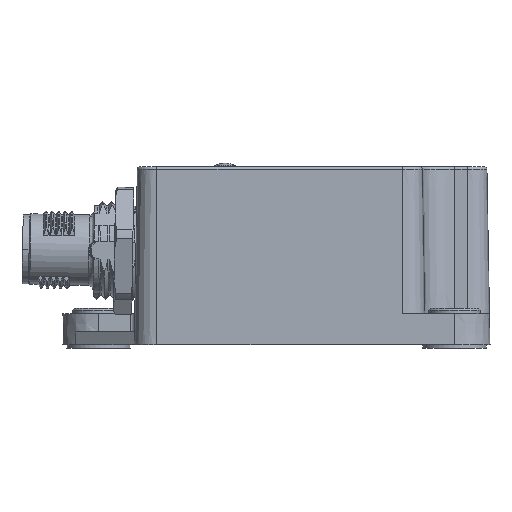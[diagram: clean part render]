
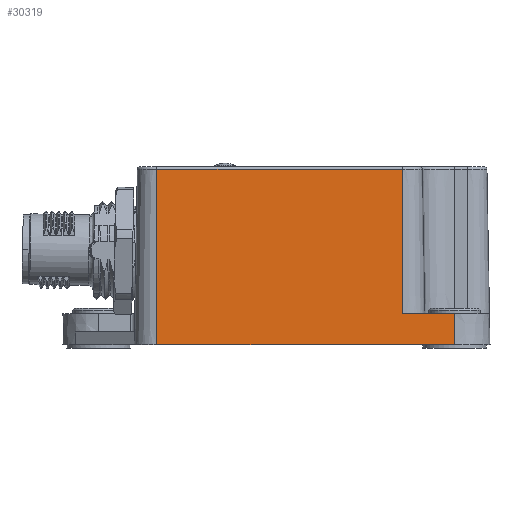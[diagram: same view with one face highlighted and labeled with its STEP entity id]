
A CAD part, front view. The second image highlights one B-rep face of the part: STEP entity #30319.
In plain terms, the highlighted planar face has unit normal (0, -1, 0.018).
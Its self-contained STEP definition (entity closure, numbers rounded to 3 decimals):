
#501 = VECTOR ( 'NONE', #4410, 1000. ) ;
#2107 = EDGE_LOOP ( 'NONE', ( #3511, #30386, #9573, #7128, #4395, #5411 ) ) ;
#3493 = CARTESIAN_POINT ( 'NONE',  ( 22.388, -26.854, 52.56 ) ) ;
#3511 = ORIENTED_EDGE ( 'NONE', *, *, #28932, .T. ) ;
#4102 = DIRECTION ( 'NONE',  ( 1., 0., 0. ) ) ;
#4395 = ORIENTED_EDGE ( 'NONE', *, *, #12021, .F. ) ;
#4410 = DIRECTION ( 'NONE',  ( -1., 0., 0. ) ) ;
#4583 = LINE ( 'NONE', #23834, #501 ) ;
#5041 = PLANE ( 'NONE',  #31847 ) ;
#5411 = ORIENTED_EDGE ( 'NONE', *, *, #15469, .F. ) ;
#6134 = VERTEX_POINT ( 'NONE', #30829 ) ;
#6281 = LINE ( 'NONE', #28763, #24489 ) ;
#7128 = ORIENTED_EDGE ( 'NONE', *, *, #28393, .T. ) ;
#7259 = VERTEX_POINT ( 'NONE', #23262 ) ;
#7508 = LINE ( 'NONE', #18476, #31455 ) ;
#7693 = VERTEX_POINT ( 'NONE', #16568 ) ;
#8123 = DIRECTION ( 'NONE',  ( 0., -0.017, -1. ) ) ;
#8974 = VERTEX_POINT ( 'NONE', #3493 ) ;
#9573 = ORIENTED_EDGE ( 'NONE', *, *, #21681, .T. ) ;
#10564 = DIRECTION ( 'NONE',  ( 0., -0.017, -1. ) ) ;
#10754 = VERTEX_POINT ( 'NONE', #22746 ) ;
#12021 = EDGE_CURVE ( 'NONE', #6134, #8974, #32174, .T. ) ;
#12358 = VECTOR ( 'NONE', #22156, 1000. ) ;
#12624 = EDGE_CURVE ( 'NONE', #15674, #7693, #4583, .T. ) ;
#14426 = LINE ( 'NONE', #27551, #12358 ) ;
#15469 = EDGE_CURVE ( 'NONE', #7259, #6134, #6281, .T. ) ;
#15659 = DIRECTION ( 'NONE',  ( 0., -0.017, -1. ) ) ;
#15674 = VERTEX_POINT ( 'NONE', #21958 ) ;
#16568 = CARTESIAN_POINT ( 'NONE',  ( -23.612, -26.381, 79.667 ) ) ;
#18476 = CARTESIAN_POINT ( 'NONE',  ( -23.612, -26.374, 80.06 ) ) ;
#21681 = EDGE_CURVE ( 'NONE', #7693, #10754, #7508, .T. ) ;
#21958 = CARTESIAN_POINT ( 'NONE',  ( 14.388, -26.381, 79.667 ) ) ;
#22156 = DIRECTION ( 'NONE',  ( 0., 0.017, 1. ) ) ;
#22746 = CARTESIAN_POINT ( 'NONE',  ( -23.612, -26.854, 52.56 ) ) ;
#23262 = CARTESIAN_POINT ( 'NONE',  ( 14.388, -26.77, 57.36 ) ) ;
#23455 = VECTOR ( 'NONE', #15659, 1000. ) ;
#23834 = CARTESIAN_POINT ( 'NONE',  ( -23.612, -26.381, 79.667 ) ) ;
#24489 = VECTOR ( 'NONE', #4102, 1000. ) ;
#26596 = CARTESIAN_POINT ( 'NONE',  ( 22.388, -26.854, 52.56 ) ) ;
#27182 = DIRECTION ( 'NONE',  ( 0., -1., 0.017 ) ) ;
#27551 = CARTESIAN_POINT ( 'NONE',  ( 14.388, -26.374, 80.06 ) ) ;
#28393 = EDGE_CURVE ( 'NONE', #10754, #8974, #32004, .T. ) ;
#28763 = CARTESIAN_POINT ( 'NONE',  ( 22.388, -26.77, 57.36 ) ) ;
#28932 = EDGE_CURVE ( 'NONE', #7259, #15674, #14426, .T. ) ;
#29357 = CARTESIAN_POINT ( 'NONE',  ( 22.388, -26.374, 80.06 ) ) ;
#29846 = CARTESIAN_POINT ( 'NONE',  ( 22.388, -26.374, 80.06 ) ) ;
#30075 = VECTOR ( 'NONE', #32175, 1000. ) ;
#30319 = ADVANCED_FACE ( 'NONE', ( #32212 ), #5041, .T. ) ;
#30386 = ORIENTED_EDGE ( 'NONE', *, *, #12624, .T. ) ;
#30829 = CARTESIAN_POINT ( 'NONE',  ( 22.388, -26.77, 57.36 ) ) ;
#31455 = VECTOR ( 'NONE', #10564, 1000. ) ;
#31847 = AXIS2_PLACEMENT_3D ( 'NONE', #29357, #27182, #8123 ) ;
#32004 = LINE ( 'NONE', #26596, #30075 ) ;
#32174 = LINE ( 'NONE', #29846, #23455 ) ;
#32175 = DIRECTION ( 'NONE',  ( 1., 0., 0. ) ) ;
#32212 = FACE_OUTER_BOUND ( 'NONE', #2107, .T. ) ;
